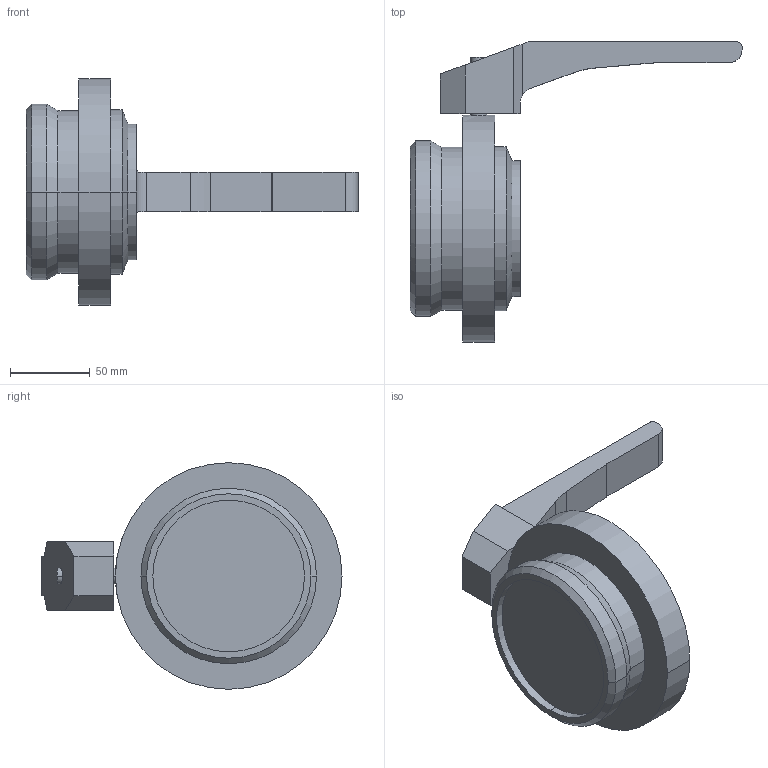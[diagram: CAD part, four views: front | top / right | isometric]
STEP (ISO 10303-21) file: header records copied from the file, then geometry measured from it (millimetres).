
FILE_DESCRIPTION(('Creo Elements/Direct Modeling STEP Export'),'2;1');
FILE_NAME('SV1-80-H-1S-2G.stp','2012-03-22T17:50:38',(''),(''),'Creo Elements/Direct Modeling STEP processor for AP214 (Solid Model)','Creo Elements/Direct Modeling 17.0D 15-Jul-2011 (C) Parametric Technology GmbH','');
FILE_SCHEMA(('AUTOMOTIVE_DESIGN { 1 0 10303 214 1 1 1 1 }'));
Length unit declared in the file: millimetre
Products named in the file (3): HANDHEBEL-SV-40-100; SV1-80-1S-2G; SV1-80-H-1S-2G-VEREINT
Assembly tree (2 placements, depth 2):
  SV1-80-H-1S-2G-VEREINT
    SV1-80-1S-2G
    HANDHEBEL-SV-40-100
Bounding box: 208 x 188 x 142 mm (x, y, z)
Volume: 788016.4 mm3; surface area: 80353.1 mm2
Topology: 2 solids, 2 shells, 54 faces, 123 edges, 78 vertices
Faces by surface type: plane 25, cylinder 23, cone 6
Entity records: 1551 total; most frequent: CARTESIAN_POINT 298, ORIENTED_EDGE 246, DIRECTION 243, EDGE_CURVE 123, AXIS2_PLACEMENT_3D 86, VERTEX_POINT 78, VECTOR 71, LINE 71
